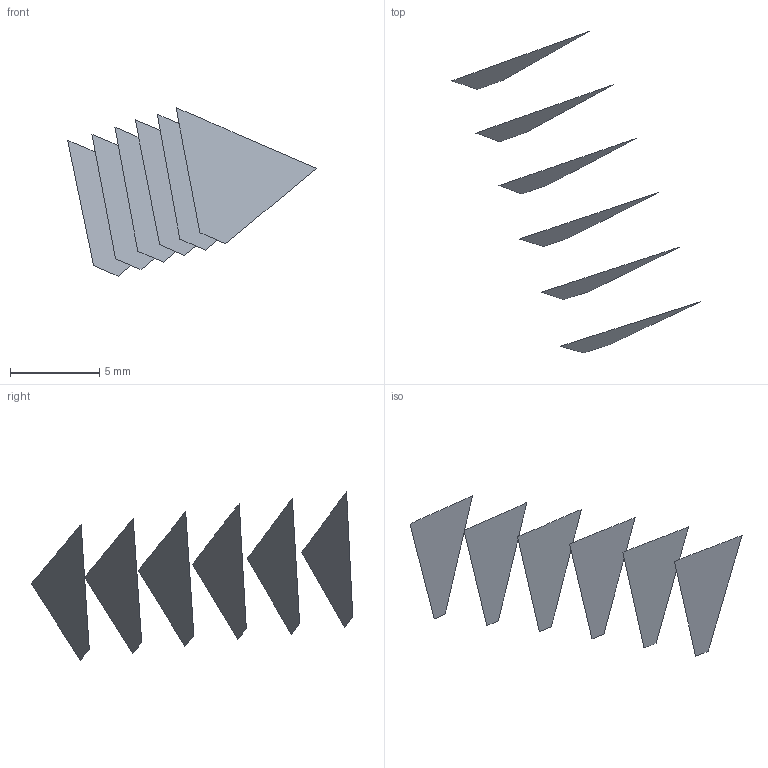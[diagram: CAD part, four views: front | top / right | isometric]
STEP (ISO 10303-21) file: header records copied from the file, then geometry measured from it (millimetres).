
FILE_DESCRIPTION(('FreeCAD Model'),'2;1');
FILE_NAME('Open CASCADE Shape Model','2022-05-22T07:50:31',('FreeCAD'),( 'FreeCAD'),'Open CASCADE STEP processor 7.5','FreeCAD','Unknown');
FILE_SCHEMA(('AUTOMOTIVE_DESIGN { 1 0 10303 214 1 1 1 1 }'));
Length unit declared in the file: millimetre
Products named in the file (7): Open CASCADE STEP translator 7.5 7; Open CASCADE STEP translator 7.5 7.1; Open CASCADE STEP translator 7.5 7.2; Open CASCADE STEP translator 7.5 7.3; Open CASCADE STEP translator 7.5 7.4; Open CASCADE STEP translator 7.5 7.5; Open CASCADE STEP translator 7.5 7.6
Assembly tree (6 placements, depth 2):
  Open CASCADE STEP translator 7.5 7
    Open CASCADE STEP translator 7.5 7.1
    Open CASCADE STEP translator 7.5 7.2
    Open CASCADE STEP translator 7.5 7.3
    Open CASCADE STEP translator 7.5 7.4
    Open CASCADE STEP translator 7.5 7.5
    Open CASCADE STEP translator 7.5 7.6
Bounding box: 13.94 x 18.02 x 9.43 mm (x, y, z)
Surface area: 191.7 mm2 (no closed solid volume)
Topology: 0 solids, 6 shells, 6 faces, 108 edges, 108 vertices
Faces by surface type: bspline 6
Entity records: 1588 total; most frequent: CARTESIAN_POINT 571, B_SPLINE_CURVE_WITH_KNOTS 216, ORIENTED_EDGE 108, EDGE_CURVE 108, VERTEX_POINT 108, SURFACE_CURVE 108, PCURVE 108, DEFINITIONAL_REPRESENTATION 108
